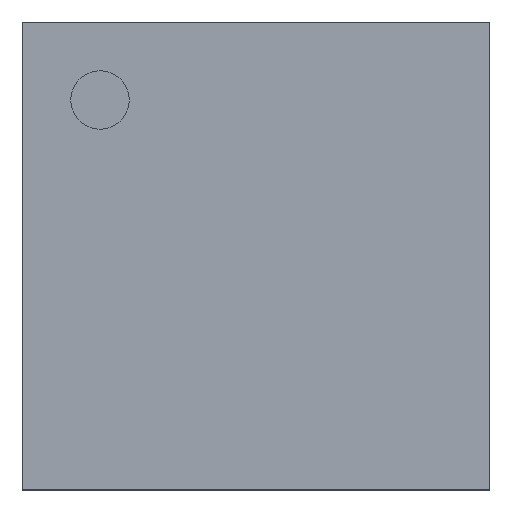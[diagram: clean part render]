
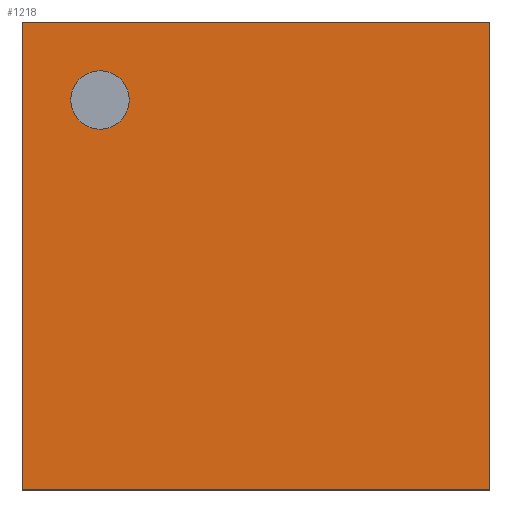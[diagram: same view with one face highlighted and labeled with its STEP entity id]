
A CAD part, top view. The second image highlights one B-rep face of the part: STEP entity #1218.
In plain terms, the highlighted planar face has unit normal (0, 0, 1).
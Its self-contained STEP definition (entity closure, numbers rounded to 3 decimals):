
#1154 = VERTEX_POINT('',#1155);
#1155 = CARTESIAN_POINT('',(0.,0.,1.07));
#1170 = VERTEX_POINT('',#1171);
#1171 = CARTESIAN_POINT('',(0.,14.,1.07));
#1177 = EDGE_CURVE('',#1154,#1170,#1178,.T.);
#1178 = LINE('',#1179,#1180);
#1179 = CARTESIAN_POINT('',(0.,0.,1.07));
#1180 = VECTOR('',#1181,1.);
#1181 = DIRECTION('',(-0.,1.,0.));
#1200 = EDGE_CURVE('',#1154,#1201,#1203,.T.);
#1201 = VERTEX_POINT('',#1202);
#1202 = CARTESIAN_POINT('',(14.,0.,1.07));
#1203 = LINE('',#1204,#1205);
#1204 = CARTESIAN_POINT('',(0.,0.,1.07));
#1205 = VECTOR('',#1206,1.);
#1206 = DIRECTION('',(1.,0.,-0.));
#1218 = ADVANCED_FACE('',(#1219,#1237),#1248,.T.);
#1219 = FACE_BOUND('',#1220,.T.);
#1220 = EDGE_LOOP('',(#1221,#1222,#1223,#1231));
#1221 = ORIENTED_EDGE('',*,*,#1177,.F.);
#1222 = ORIENTED_EDGE('',*,*,#1200,.T.);
#1223 = ORIENTED_EDGE('',*,*,#1224,.T.);
#1224 = EDGE_CURVE('',#1201,#1225,#1227,.T.);
#1225 = VERTEX_POINT('',#1226);
#1226 = CARTESIAN_POINT('',(14.,14.,1.07));
#1227 = LINE('',#1228,#1229);
#1228 = CARTESIAN_POINT('',(14.,0.,1.07));
#1229 = VECTOR('',#1230,1.);
#1230 = DIRECTION('',(-0.,1.,0.));
#1231 = ORIENTED_EDGE('',*,*,#1232,.F.);
#1232 = EDGE_CURVE('',#1170,#1225,#1233,.T.);
#1233 = LINE('',#1234,#1235);
#1234 = CARTESIAN_POINT('',(0.,14.,1.07));
#1235 = VECTOR('',#1236,1.);
#1236 = DIRECTION('',(1.,0.,-0.));
#1237 = FACE_BOUND('',#1238,.T.);
#1238 = EDGE_LOOP('',(#1239));
#1239 = ORIENTED_EDGE('',*,*,#1240,.F.);
#1240 = EDGE_CURVE('',#1241,#1241,#1243,.T.);
#1241 = VERTEX_POINT('',#1242);
#1242 = CARTESIAN_POINT('',(3.208,11.667,1.07));
#1243 = CIRCLE('',#1244,0.875);
#1244 = AXIS2_PLACEMENT_3D('',#1245,#1246,#1247);
#1245 = CARTESIAN_POINT('',(2.333,11.667,1.07));
#1246 = DIRECTION('',(0.,0.,1.));
#1247 = DIRECTION('',(1.,0.,-0.));
#1248 = PLANE('',#1249);
#1249 = AXIS2_PLACEMENT_3D('',#1250,#1251,#1252);
#1250 = CARTESIAN_POINT('',(0.,0.,1.07));
#1251 = DIRECTION('',(0.,0.,1.));
#1252 = DIRECTION('',(1.,0.,-0.));
